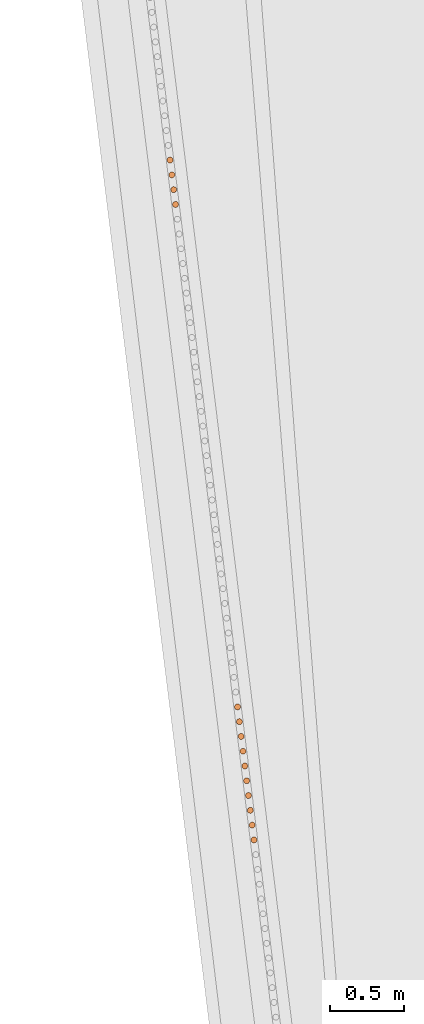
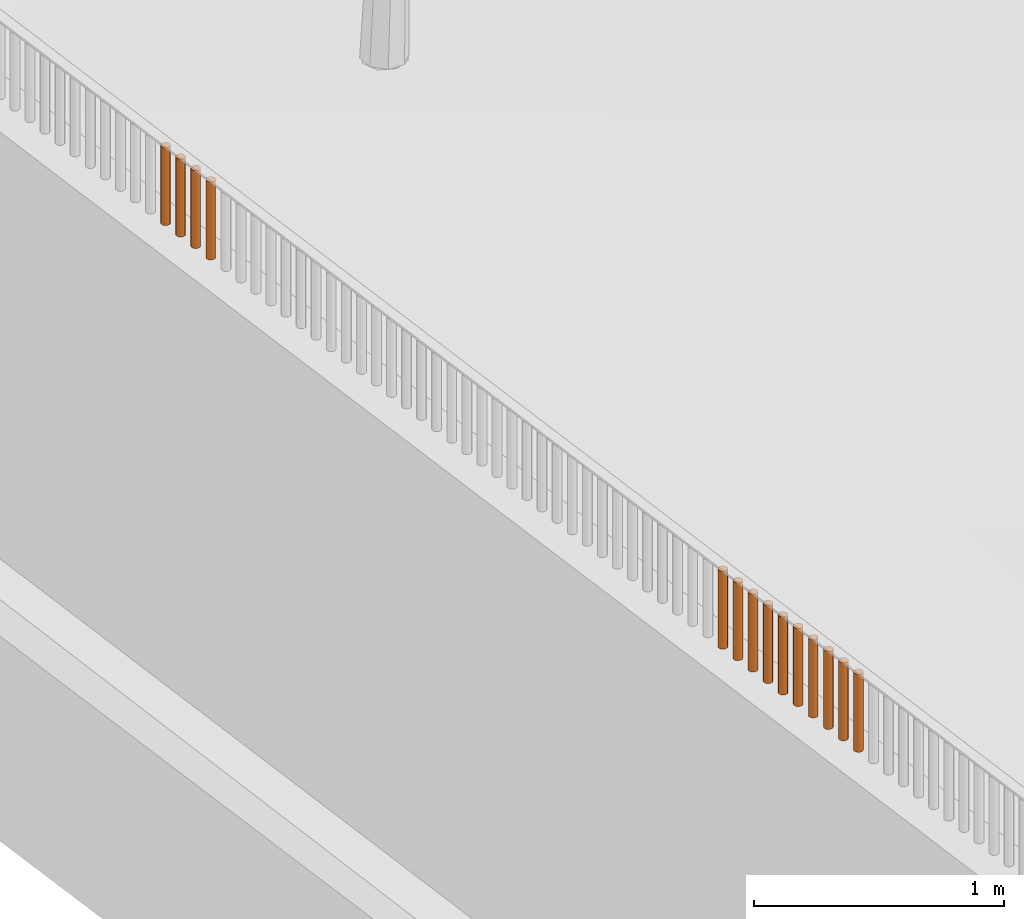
# One storey, part 118 of 1809: 14 proxies, 1 element without a shape of its own.
"""IFC2X3 building model written with IfcOpenShell, lengths in millimetres."""

from ifc_helpers import new_model, entity, si_unit, converted_unit, derived_unit, money_unit, direction, frame, origin_with_axes, place, context, subcontext, project, spatial, faceted_brep, source, transform, mapped, material, type_object, element, aggregate, save


model = new_model("IFC2X3")

# Units and contexts
model_context = context("Model", 3, precision=0.01, world=origin_with_axes(), true_north=direction((0.0, 1.0)))
body_context = subcontext(model_context, "Body", "Model", "MODEL_VIEW")
ifc_project = project(units=[si_unit("LENGTHUNIT", "METRE", prefix="MILLI"), si_unit("AREAUNIT", "SQUARE_METRE"), si_unit("VOLUMEUNIT", "CUBIC_METRE"), converted_unit("PLANEANGLEUNIT", "DEGREE", entity("IfcPlaneAngleMeasure", 0.0174532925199), si_unit("PLANEANGLEUNIT", "RADIAN"), dimensions=[0, 0, 0, 0, 0, 0, 0]), si_unit("SOLIDANGLEUNIT", "STERADIAN"), money_unit("EUR"), converted_unit("TIMEUNIT", "Year", entity("IfcTimeMeasure", 31556926.0), si_unit("TIMEUNIT", "SECOND"), dimensions=[0, 0, 1, 0, 0, 0, 0]), si_unit("MASSUNIT", "GRAM", prefix="KILO"), si_unit("THERMODYNAMICTEMPERATUREUNIT", "DEGREE_CELSIUS"), si_unit("LUMINOUSINTENSITYUNIT", "LUMEN"), si_unit("ENERGYUNIT", "JOULE", prefix="MEGA"), derived_unit("THERMALCONDUCTANCEUNIT", [(si_unit("POWERUNIT", "WATT"), 1), (si_unit("LENGTHUNIT", "METRE"), -1), (si_unit("THERMODYNAMICTEMPERATUREUNIT", "KELVIN"), -1)]), derived_unit("SPECIFICHEATCAPACITYUNIT", [(si_unit("ENERGYUNIT", "JOULE"), 1), (si_unit("MASSUNIT", "GRAM", prefix="KILO"), -1), (si_unit("THERMODYNAMICTEMPERATUREUNIT", "KELVIN"), -1)]), derived_unit("MASSDENSITYUNIT", [(si_unit("MASSUNIT", "GRAM", prefix="KILO"), 1), (si_unit("VOLUMEUNIT", "CUBIC_METRE"), -1)])], contexts=[model_context])

# Site, building, storey
site_placement = place(None, origin_with_axes())
site = spatial("IfcSite", under=ifc_project, at=site_placement, Name="Politse- ja Piirivalveameti ning Päästeameti ühishoone", CompositionType="ELEMENT")
building_placement = place(site_placement, origin_with_axes())
building = spatial("IfcBuilding", under=site, at=building_placement, Name="Politse- ja Piirivalveameti ning Päästeameti ühishoone", CompositionType="ELEMENT")
storey_placement = place(building_placement, origin_with_axes())
storey = spatial("IfcBuildingStorey", under=building, at=storey_placement, Name="Esimene korrus", CompositionType="ELEMENT", Elevation=0.0)

# Proxies
building_element_proxy_type_1 = type_object("IfcBuildingElementProxyType", Name="Railing Type", PredefinedType="NOTDEFINED")
proxy_1_placement = place(storey_placement, frame((-18956.5522504, -53688.4757966, 2100.0), z_axis=(0.0, 0.0, 1.0), x_axis=(1.0, 0.0, 0.0)))
proxy_1 = element("IfcBuildingElementProxy", 1, at=proxy_1_placement, inside=storey, type_object=building_element_proxy_type_1, Name="PIIRDEAED")
ifc_material = material(Name="ET-06_Teras - Konstruktsioon")
building_element_proxy_type_2 = type_object("IfcBuildingElementProxyType", Name="IfcBuildingElementProxy", PredefinedType="NOTDEFINED")
shared_shape_1 = source(origin_with_axes(), body_context, "Body", "Brep", [
    faceted_brep([(0.0, -20.0, 0.0), (3.47296355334, -19.6961550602, 0.0), (3.47296355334, -19.6961550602, 380.000012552), (0.0, -20.0, 380.000012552), (-3.47296355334, -19.6961550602, 0.0), (-6.84040286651, -18.7938524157, 0.0), (-10.0, -17.3205080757, 0.0), (-12.8557521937, -15.3208888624, 0.0), (-15.3208888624, -12.8557521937, 0.0), (-17.3205080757, -10.0, 0.0), (-18.7938524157, -6.84040286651, 0.0), (-19.6961550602, -3.47296355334, 0.0), (-20.0, 0.0, 0.0), (-19.6961550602, 3.47296355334, 0.0), (-18.7938524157, 6.84040286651, 0.0), (-17.3205080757, 10.0, 0.0), (-15.3208888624, 12.8557521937, 0.0), (-12.8557521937, 15.3208888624, 0.0), (-10.0, 17.3205080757, 0.0), (-6.84040286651, 18.7938524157, 0.0), (-3.47296355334, 19.6961550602, 0.0), (0.0, 20.0, 0.0), (3.47296355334, 19.6961550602, 0.0), (6.84040286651, 18.7938524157, 0.0), (10.0, 17.3205080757, 0.0), (12.8557521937, 15.3208888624, 0.0), (15.3208888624, 12.8557521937, 0.0), (17.3205080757, 10.0, 0.0), (18.7938524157, 6.84040286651, 0.0), (19.6961550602, 3.47296355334, 0.0), (20.0, 0.0, 0.0), (19.6961550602, -3.47296355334, 0.0), (18.7938524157, -6.84040286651, 0.0), (17.3205080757, -10.0, 0.0), (15.3208888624, -12.8557521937, 0.0), (12.8557521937, -15.3208888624, 0.0), (10.0, -17.3205080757, 0.0), (6.84040286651, -18.7938524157, 0.0), (6.84040286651, -18.7938524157, 380.000012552), (10.0, -17.3205080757, 380.000012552), (12.8557521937, -15.3208888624, 380.000012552), (15.3208888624, -12.8557521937, 380.000012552), (17.3205080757, -10.0, 380.000012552), (18.7938524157, -6.84040286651, 380.000012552), (19.6961550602, -3.47296355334, 380.000012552), (20.0, 0.0, 380.000012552), (19.6961550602, 3.47296355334, 380.000012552), (18.7938524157, 6.84040286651, 380.000012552), (17.3205080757, 10.0, 380.000012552), (15.3208888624, 12.8557521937, 380.000012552), (12.8557521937, 15.3208888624, 380.000012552), (10.0, 17.3205080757, 380.000012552), (6.84040286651, 18.7938524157, 380.000012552), (3.47296355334, 19.6961550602, 380.000012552), (0.0, 20.0, 380.000012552), (-3.47296355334, 19.6961550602, 380.000012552), (-6.84040286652, 18.7938524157, 380.000012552), (-10.0, 17.3205080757, 380.000012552), (-12.8557521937, 15.3208888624, 380.000012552), (-15.3208888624, 12.8557521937, 380.000012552), (-17.3205080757, 10.0, 380.000012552), (-18.7938524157, 6.84040286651, 380.000012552), (-19.6961550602, 3.47296355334, 380.000012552), (-20.0, 0.0, 380.000012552), (-19.6961550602, -3.47296355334, 380.000012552), (-18.7938524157, -6.84040286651, 380.000012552), (-17.3205080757, -10.0, 380.000012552), (-15.3208888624, -12.8557521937, 380.000012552), (-12.8557521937, -15.3208888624, 380.000012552), (-10.0, -17.3205080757, 380.000012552), (-6.84040286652, -18.7938524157, 380.000012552), (-3.47296355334, -19.6961550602, 380.000012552)], [[[0, 1, 2, 3]], [[0, 4, 5, 6, 7, 8, 9, 10, 11, 12, 13, 14, 15, 16, 17, 18, 19, 20, 21, 22, 23, 24, 25, 26, 27, 28, 29, 30, 31, 32, 33, 34, 35, 36, 37, 1]], [[1, 37, 38, 2]], [[3, 2, 38, 39, 40, 41, 42, 43, 44, 45, 46, 47, 48, 49, 50, 51, 52, 53, 54, 55, 56, 57, 58, 59, 60, 61, 62, 63, 64, 65, 66, 67, 68, 69, 70, 71]], [[4, 0, 3, 71]], [[5, 4, 71, 70]], [[6, 5, 70, 69]], [[7, 6, 69, 68]], [[8, 7, 68, 67]], [[9, 8, 67, 66]], [[10, 9, 66, 65]], [[11, 10, 65, 64]], [[12, 11, 64, 63]], [[13, 12, 63, 62]], [[14, 13, 62, 61]], [[15, 14, 61, 60]], [[16, 15, 60, 59]], [[17, 16, 59, 58]], [[18, 17, 58, 57]], [[19, 18, 57, 56]], [[20, 19, 56, 55]], [[21, 20, 55, 54]], [[22, 21, 54, 53]], [[23, 22, 53, 52]], [[24, 23, 52, 51]], [[25, 24, 51, 50]], [[26, 25, 50, 49]], [[27, 26, 49, 48]], [[28, 27, 48, 47]], [[29, 28, 47, 46]], [[30, 29, 46, 45]], [[31, 30, 45, 44]], [[32, 31, 44, 43]], [[33, 32, 43, 42]], [[34, 33, 42, 41]], [[35, 34, 41, 40]], [[36, 35, 40, 39]], [[37, 36, 39, 38]]]),
])
proxy_2_placement = place(proxy_1_placement, frame((-2456.82989096, 19070.0410102, -1.25517001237e-05), z_axis=(0.0, 0.0, 1.0), x_axis=(1.0, 0.0, 0.0)))
proxy_2 = element("IfcBuildingElementProxy", 2, at=proxy_2_placement, type_object=building_element_proxy_type_2, material=ifc_material, Name="BALUSTER - 001", context=body_context, shape_type="MappedRepresentation", body=[
    mapped(shared_shape_1, transform((0.0, 0.0, 0.0), x_axis=(0.992468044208, 0.122503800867, 0.0), y_axis=(-0.122503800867, 0.992468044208, 0.0), z_axis=(0.0, 0.0, 1.0))),
])
proxy_3_placement = place(proxy_1_placement, frame((-2542.56382535, 19764.6169302, -1.25517001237e-05), z_axis=(0.0, 0.0, 1.0), x_axis=(1.0, 0.0, 0.0)))
proxy_3 = element("IfcBuildingElementProxy", 3, at=proxy_3_placement, type_object=building_element_proxy_type_2, material=ifc_material, Name="BALUSTER - 001", context=body_context, shape_type="MappedRepresentation", body=[
    mapped(shared_shape_1, transform((0.0, 0.0, 0.0), x_axis=(0.992468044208, 0.122503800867, 0.0), y_axis=(-0.122503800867, 0.992468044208, 0.0), z_axis=(0.0, 0.0, 1.0))),
])
proxy_4_placement = place(proxy_1_placement, frame((-2554.81153027, 19863.8420616, -1.25517001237e-05), z_axis=(0.0, 0.0, 1.0), x_axis=(1.0, 0.0, 0.0)))
proxy_4 = element("IfcBuildingElementProxy", 4, at=proxy_4_placement, type_object=building_element_proxy_type_2, material=ifc_material, Name="BALUSTER - 001", context=body_context, shape_type="MappedRepresentation", body=[
    mapped(shared_shape_1, transform((0.0, 0.0, 0.0), x_axis=(0.992468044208, 0.122503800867, 0.0), y_axis=(-0.122503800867, 0.992468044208, 0.0), z_axis=(0.0, 0.0, 1.0))),
])
proxy_5_placement = place(proxy_1_placement, frame((-2995.72890714, 23435.9467929, -1.25517001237e-05), z_axis=(0.0, 0.0, 1.0), x_axis=(1.0, 0.0, 0.0)))
proxy_5 = element("IfcBuildingElementProxy", 5, at=proxy_5_placement, type_object=building_element_proxy_type_2, material=ifc_material, Name="BALUSTER - 001", context=body_context, shape_type="MappedRepresentation", body=[
    mapped(shared_shape_1, transform((0.0, 0.0, 0.0), x_axis=(0.992468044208, 0.122503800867, 0.0), y_axis=(-0.122503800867, 0.992468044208, 0.0), z_axis=(0.0, 0.0, 1.0))),
])
shared_shape_2 = source(origin_with_axes(), body_context, "Body", "Brep", [
    faceted_brep([(0.0, -20.0, 0.0), (3.47296355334, -19.6961550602, 0.0), (3.47296355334, -19.6961550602, 380.000012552), (0.0, -20.0, 380.000012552), (-3.47296355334, -19.6961550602, 0.0), (-6.84040286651, -18.7938524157, 0.0), (-10.0, -17.3205080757, 0.0), (-12.8557521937, -15.3208888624, 0.0), (-15.3208888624, -12.8557521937, 0.0), (-17.3205080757, -10.0, 0.0), (-18.7938524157, -6.84040286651, 0.0), (-19.6961550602, -3.47296355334, 0.0), (-20.0, 0.0, 0.0), (-19.6961550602, 3.47296355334, 0.0), (-18.7938524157, 6.84040286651, 0.0), (-17.3205080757, 10.0, 0.0), (-15.3208888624, 12.8557521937, 0.0), (-12.8557521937, 15.3208888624, 0.0), (-10.0, 17.3205080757, 0.0), (-6.84040286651, 18.7938524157, 0.0), (-3.47296355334, 19.6961550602, 0.0), (0.0, 20.0, 0.0), (3.47296355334, 19.6961550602, 0.0), (6.84040286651, 18.7938524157, 0.0), (10.0, 17.3205080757, 0.0), (12.8557521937, 15.3208888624, 0.0), (15.3208888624, 12.8557521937, 0.0), (17.3205080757, 10.0, 0.0), (18.7938524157, 6.84040286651, 0.0), (19.6961550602, 3.47296355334, 0.0), (20.0, 0.0, 0.0), (19.6961550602, -3.47296355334, 0.0), (18.7938524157, -6.84040286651, 0.0), (17.3205080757, -10.0, 0.0), (15.3208888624, -12.8557521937, 0.0), (12.8557521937, -15.3208888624, 0.0), (10.0, -17.3205080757, 0.0), (6.84040286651, -18.7938524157, 0.0), (6.84040286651, -18.7938524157, 380.000012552), (10.0, -17.3205080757, 380.000012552), (12.8557521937, -15.3208888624, 380.000012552), (15.3208888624, -12.8557521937, 380.000012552), (17.3205080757, -10.0, 380.000012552), (18.7938524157, -6.84040286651, 380.000012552), (19.6961550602, -3.47296355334, 380.000012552), (20.0, 0.0, 380.000012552), (19.6961550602, 3.47296355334, 380.000012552), (18.7938524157, 6.84040286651, 380.000012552), (17.3205080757, 10.0, 380.000012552), (15.3208888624, 12.8557521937, 380.000012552), (12.8557521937, 15.3208888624, 380.000012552), (10.0, 17.3205080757, 380.000012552), (6.84040286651, 18.7938524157, 380.000012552), (3.47296355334, 19.6961550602, 380.000012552), (0.0, 20.0, 380.000012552), (-3.47296355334, 19.6961550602, 380.000012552), (-6.84040286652, 18.7938524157, 380.000012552), (-10.0, 17.3205080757, 380.000012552), (-12.8557521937, 15.3208888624, 380.000012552), (-15.3208888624, 12.8557521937, 380.000012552), (-17.3205080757, 10.0, 380.000012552), (-18.7938524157, 6.84040286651, 380.000012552), (-19.6961550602, 3.47296355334, 380.000012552), (-20.0, 0.0, 380.000012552), (-19.6961550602, -3.47296355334, 380.000012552), (-18.7938524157, -6.84040286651, 380.000012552), (-17.3205080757, -10.0, 380.000012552), (-15.3208888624, -12.8557521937, 380.000012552), (-12.8557521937, -15.3208888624, 380.000012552), (-10.0, -17.3205080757, 380.000012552), (-6.84040286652, -18.7938524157, 380.000012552), (-3.47296355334, -19.6961550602, 380.000012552)], [[[0, 1, 2, 3]], [[0, 4, 5, 6, 7, 8, 9, 10, 11, 12, 13, 14, 15, 16, 17, 18, 19, 20, 21, 22, 23, 24, 25, 26, 27, 28, 29, 30, 31, 32, 33, 34, 35, 36, 37, 1]], [[1, 37, 38, 2]], [[3, 2, 38, 39, 40, 41, 42, 43, 44, 45, 46, 47, 48, 49, 50, 51, 52, 53, 54, 55, 56, 57, 58, 59, 60, 61, 62, 63, 64, 65, 66, 67, 68, 69, 70, 71]], [[4, 0, 3, 71]], [[5, 4, 71, 70]], [[6, 5, 70, 69]], [[7, 6, 69, 68]], [[8, 7, 68, 67]], [[9, 8, 67, 66]], [[10, 9, 66, 65]], [[11, 10, 65, 64]], [[12, 11, 64, 63]], [[13, 12, 63, 62]], [[14, 13, 62, 61]], [[15, 14, 61, 60]], [[16, 15, 60, 59]], [[17, 16, 59, 58]], [[18, 17, 58, 57]], [[19, 18, 57, 56]], [[20, 19, 56, 55]], [[21, 20, 55, 54]], [[22, 21, 54, 53]], [[23, 22, 53, 52]], [[24, 23, 52, 51]], [[25, 24, 51, 50]], [[26, 25, 50, 49]], [[27, 26, 49, 48]], [[28, 27, 48, 47]], [[29, 28, 47, 46]], [[30, 29, 46, 45]], [[31, 30, 45, 44]], [[32, 31, 44, 43]], [[33, 32, 43, 42]], [[34, 33, 42, 41]], [[35, 34, 41, 40]], [[36, 35, 40, 39]], [[37, 36, 39, 38]]]),
])
proxy_6_placement = place(proxy_1_placement, frame((-2481.32530079, 19268.4912731, -1.25517001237e-05), z_axis=(0.0, 0.0, 1.0), x_axis=(1.0, 0.0, 0.0)))
proxy_6 = element("IfcBuildingElementProxy", 6, at=proxy_6_placement, type_object=building_element_proxy_type_2, material=ifc_material, Name="BALUSTER - 001", context=body_context, shape_type="MappedRepresentation", body=[
    mapped(shared_shape_2, transform((0.0, 0.0, 0.0), x_axis=(0.992468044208, 0.122503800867, 0.0), y_axis=(-0.122503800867, 0.992468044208, 0.0), z_axis=(0.0, 0.0, 1.0))),
])
shared_shape_3 = source(origin_with_axes(), body_context, "Body", "Brep", [
    faceted_brep([(0.0, -20.0, 0.0), (3.47296355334, -19.6961550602, 0.0), (3.47296355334, -19.6961550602, 380.000012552), (0.0, -20.0, 380.000012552), (-3.47296355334, -19.6961550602, 0.0), (-6.84040286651, -18.7938524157, 0.0), (-10.0, -17.3205080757, 0.0), (-12.8557521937, -15.3208888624, 0.0), (-15.3208888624, -12.8557521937, 0.0), (-17.3205080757, -10.0, 0.0), (-18.7938524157, -6.84040286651, 0.0), (-19.6961550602, -3.47296355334, 0.0), (-20.0, 0.0, 0.0), (-19.6961550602, 3.47296355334, 0.0), (-18.7938524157, 6.84040286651, 0.0), (-17.3205080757, 10.0, 0.0), (-15.3208888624, 12.8557521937, 0.0), (-12.8557521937, 15.3208888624, 0.0), (-10.0, 17.3205080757, 0.0), (-6.84040286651, 18.7938524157, 0.0), (-3.47296355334, 19.6961550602, 0.0), (0.0, 20.0, 0.0), (3.47296355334, 19.6961550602, 0.0), (6.84040286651, 18.7938524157, 0.0), (10.0, 17.3205080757, 0.0), (12.8557521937, 15.3208888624, 0.0), (15.3208888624, 12.8557521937, 0.0), (17.3205080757, 10.0, 0.0), (18.7938524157, 6.84040286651, 0.0), (19.6961550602, 3.47296355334, 0.0), (20.0, 0.0, 0.0), (19.6961550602, -3.47296355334, 0.0), (18.7938524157, -6.84040286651, 0.0), (17.3205080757, -10.0, 0.0), (15.3208888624, -12.8557521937, 0.0), (12.8557521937, -15.3208888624, 0.0), (10.0, -17.3205080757, 0.0), (6.84040286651, -18.7938524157, 0.0), (6.84040286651, -18.7938524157, 380.000012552), (10.0, -17.3205080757, 380.000012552), (12.8557521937, -15.3208888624, 380.000012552), (15.3208888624, -12.8557521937, 380.000012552), (17.3205080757, -10.0, 380.000012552), (18.7938524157, -6.84040286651, 380.000012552), (19.6961550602, -3.47296355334, 380.000012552), (20.0, 0.0, 380.000012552), (19.6961550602, 3.47296355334, 380.000012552), (18.7938524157, 6.84040286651, 380.000012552), (17.3205080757, 10.0, 380.000012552), (15.3208888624, 12.8557521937, 380.000012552), (12.8557521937, 15.3208888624, 380.000012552), (10.0, 17.3205080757, 380.000012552), (6.84040286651, 18.7938524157, 380.000012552), (3.47296355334, 19.6961550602, 380.000012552), (0.0, 20.0, 380.000012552), (-3.47296355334, 19.6961550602, 380.000012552), (-6.84040286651, 18.7938524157, 380.000012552), (-10.0, 17.3205080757, 380.000012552), (-12.8557521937, 15.3208888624, 380.000012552), (-15.3208888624, 12.8557521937, 380.000012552), (-17.3205080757, 10.0, 380.000012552), (-18.7938524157, 6.84040286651, 380.000012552), (-19.6961550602, 3.47296355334, 380.000012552), (-20.0, 0.0, 380.000012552), (-19.6961550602, -3.47296355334, 380.000012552), (-18.7938524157, -6.84040286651, 380.000012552), (-17.3205080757, -10.0, 380.000012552), (-15.3208888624, -12.8557521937, 380.000012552), (-12.8557521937, -15.3208888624, 380.000012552), (-10.0, -17.3205080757, 380.000012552), (-6.84040286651, -18.7938524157, 380.000012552), (-3.47296355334, -19.6961550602, 380.000012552)], [[[0, 1, 2, 3]], [[0, 4, 5, 6, 7, 8, 9, 10, 11, 12, 13, 14, 15, 16, 17, 18, 19, 20, 21, 22, 23, 24, 25, 26, 27, 28, 29, 30, 31, 32, 33, 34, 35, 36, 37, 1]], [[1, 37, 38, 2]], [[3, 2, 38, 39, 40, 41, 42, 43, 44, 45, 46, 47, 48, 49, 50, 51, 52, 53, 54, 55, 56, 57, 58, 59, 60, 61, 62, 63, 64, 65, 66, 67, 68, 69, 70, 71]], [[4, 0, 3, 71]], [[5, 4, 71, 70]], [[6, 5, 70, 69]], [[7, 6, 69, 68]], [[8, 7, 68, 67]], [[9, 8, 67, 66]], [[10, 9, 66, 65]], [[11, 10, 65, 64]], [[12, 11, 64, 63]], [[13, 12, 63, 62]], [[14, 13, 62, 61]], [[15, 14, 61, 60]], [[16, 15, 60, 59]], [[17, 16, 59, 58]], [[18, 17, 58, 57]], [[19, 18, 57, 56]], [[20, 19, 56, 55]], [[21, 20, 55, 54]], [[22, 21, 54, 53]], [[23, 22, 53, 52]], [[24, 23, 52, 51]], [[25, 24, 51, 50]], [[26, 25, 50, 49]], [[27, 26, 49, 48]], [[28, 27, 48, 47]], [[29, 28, 47, 46]], [[30, 29, 46, 45]], [[31, 30, 45, 44]], [[32, 31, 44, 43]], [[33, 32, 43, 42]], [[34, 33, 42, 41]], [[35, 34, 41, 40]], [[36, 35, 40, 39]], [[37, 36, 39, 38]]]),
])
proxy_7_placement = place(proxy_1_placement, frame((-2444.58218605, 18970.8158788, -1.25517001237e-05), z_axis=(0.0, 0.0, 1.0), x_axis=(1.0, 0.0, 0.0)))
proxy_7 = element("IfcBuildingElementProxy", 7, at=proxy_7_placement, type_object=building_element_proxy_type_2, material=ifc_material, Name="BALUSTER - 001", context=body_context, shape_type="MappedRepresentation", body=[
    mapped(shared_shape_3, transform((0.0, 0.0, 0.0), x_axis=(0.992468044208, 0.122503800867, 0.0), y_axis=(-0.122503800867, 0.992468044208, 0.0), z_axis=(0.0, 0.0, 1.0))),
])
proxy_8_placement = place(proxy_1_placement, frame((-2469.07759588, 19169.2661417, -1.25517001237e-05), z_axis=(0.0, 0.0, 1.0), x_axis=(1.0, 0.0, 0.0)))
proxy_8 = element("IfcBuildingElementProxy", 8, at=proxy_8_placement, type_object=building_element_proxy_type_2, material=ifc_material, Name="BALUSTER - 001", context=body_context, shape_type="MappedRepresentation", body=[
    mapped(shared_shape_3, transform((0.0, 0.0, 0.0), x_axis=(0.992468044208, 0.122503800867, 0.0), y_axis=(-0.122503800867, 0.992468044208, 0.0), z_axis=(0.0, 0.0, 1.0))),
])
proxy_9_placement = place(proxy_1_placement, frame((-2493.5730057, 19367.7164045, -1.25517001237e-05), z_axis=(0.0, 0.0, 1.0), x_axis=(1.0, 0.0, 0.0)))
proxy_9 = element("IfcBuildingElementProxy", 9, at=proxy_9_placement, type_object=building_element_proxy_type_2, material=ifc_material, Name="BALUSTER - 001", context=body_context, shape_type="MappedRepresentation", body=[
    mapped(shared_shape_3, transform((0.0, 0.0, 0.0), x_axis=(0.992468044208, 0.122503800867, 0.0), y_axis=(-0.122503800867, 0.992468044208, 0.0), z_axis=(0.0, 0.0, 1.0))),
])
proxy_10_placement = place(proxy_1_placement, frame((-2518.06841553, 19566.1666674, -1.25517001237e-05), z_axis=(0.0, 0.0, 1.0), x_axis=(1.0, 0.0, 0.0)))
proxy_10 = element("IfcBuildingElementProxy", 10, at=proxy_10_placement, type_object=building_element_proxy_type_2, material=ifc_material, Name="BALUSTER - 001", context=body_context, shape_type="MappedRepresentation", body=[
    mapped(shared_shape_3, transform((0.0, 0.0, 0.0), x_axis=(0.992468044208, 0.122503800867, 0.0), y_axis=(-0.122503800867, 0.992468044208, 0.0), z_axis=(0.0, 0.0, 1.0))),
])
proxy_11_placement = place(proxy_1_placement, frame((-2983.48120222, 23336.7216615, -1.25517001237e-05), z_axis=(0.0, 0.0, 1.0), x_axis=(1.0, 0.0, 0.0)))
proxy_11 = element("IfcBuildingElementProxy", 11, at=proxy_11_placement, type_object=building_element_proxy_type_2, material=ifc_material, Name="BALUSTER - 001", context=body_context, shape_type="MappedRepresentation", body=[
    mapped(shared_shape_3, transform((0.0, 0.0, 0.0), x_axis=(0.992468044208, 0.122503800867, 0.0), y_axis=(-0.122503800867, 0.992468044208, 0.0), z_axis=(0.0, 0.0, 1.0))),
])
proxy_12_placement = place(proxy_1_placement, frame((-3007.97661205, 23535.1719244, -1.25517001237e-05), z_axis=(0.0, 0.0, 1.0), x_axis=(1.0, 0.0, 0.0)))
proxy_12 = element("IfcBuildingElementProxy", 12, at=proxy_12_placement, type_object=building_element_proxy_type_2, material=ifc_material, Name="BALUSTER - 001", context=body_context, shape_type="MappedRepresentation", body=[
    mapped(shared_shape_3, transform((0.0, 0.0, 0.0), x_axis=(0.992468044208, 0.122503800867, 0.0), y_axis=(-0.122503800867, 0.992468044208, 0.0), z_axis=(0.0, 0.0, 1.0))),
])
shared_shape_4 = source(origin_with_axes(), body_context, "Body", "Brep", [
    faceted_brep([(0.0, -20.0, 0.0), (3.47296355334, -19.6961550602, 0.0), (3.47296355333, -19.6961550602, 380.000012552), (0.0, -20.0, 380.000012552), (-3.47296355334, -19.6961550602, 0.0), (-6.84040286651, -18.7938524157, 0.0), (-10.0, -17.3205080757, 0.0), (-12.8557521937, -15.3208888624, 0.0), (-15.3208888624, -12.8557521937, 0.0), (-17.3205080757, -10.0, 0.0), (-18.7938524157, -6.84040286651, 0.0), (-19.6961550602, -3.47296355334, 0.0), (-20.0, 0.0, 0.0), (-19.6961550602, 3.47296355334, 0.0), (-18.7938524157, 6.84040286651, 0.0), (-17.3205080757, 10.0, 0.0), (-15.3208888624, 12.8557521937, 0.0), (-12.8557521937, 15.3208888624, 0.0), (-10.0, 17.3205080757, 0.0), (-6.84040286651, 18.7938524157, 0.0), (-3.47296355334, 19.6961550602, 0.0), (0.0, 20.0, 0.0), (3.47296355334, 19.6961550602, 0.0), (6.84040286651, 18.7938524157, 0.0), (10.0, 17.3205080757, 0.0), (12.8557521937, 15.3208888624, 0.0), (15.3208888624, 12.8557521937, 0.0), (17.3205080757, 10.0, 0.0), (18.7938524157, 6.84040286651, 0.0), (19.6961550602, 3.47296355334, 0.0), (20.0, 0.0, 0.0), (19.6961550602, -3.47296355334, 0.0), (18.7938524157, -6.84040286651, 0.0), (17.3205080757, -10.0, 0.0), (15.3208888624, -12.8557521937, 0.0), (12.8557521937, -15.3208888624, 0.0), (10.0, -17.3205080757, 0.0), (6.84040286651, -18.7938524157, 0.0), (6.84040286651, -18.7938524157, 380.000012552), (9.99999999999, -17.3205080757, 380.000012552), (12.8557521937, -15.3208888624, 380.000012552), (15.3208888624, -12.8557521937, 380.000012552), (17.3205080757, -10.0, 380.000012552), (18.7938524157, -6.84040286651, 380.000012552), (19.6961550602, -3.47296355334, 380.000012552), (20.0, 0.0, 380.000012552), (19.6961550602, 3.47296355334, 380.000012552), (18.7938524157, 6.84040286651, 380.000012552), (17.3205080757, 10.0, 380.000012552), (15.3208888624, 12.8557521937, 380.000012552), (12.8557521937, 15.3208888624, 380.000012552), (9.99999999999, 17.3205080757, 380.000012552), (6.84040286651, 18.7938524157, 380.000012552), (3.47296355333, 19.6961550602, 380.000012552), (0.0, 20.0, 380.000012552), (-3.47296355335, 19.6961550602, 380.000012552), (-6.84040286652, 18.7938524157, 380.000012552), (-10.0, 17.3205080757, 380.000012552), (-12.8557521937, 15.3208888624, 380.000012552), (-15.3208888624, 12.8557521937, 380.000012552), (-17.3205080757, 10.0, 380.000012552), (-18.7938524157, 6.84040286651, 380.000012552), (-19.6961550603, 3.47296355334, 380.000012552), (-20.0, 0.0, 380.000012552), (-19.6961550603, -3.47296355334, 380.000012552), (-18.7938524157, -6.84040286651, 380.000012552), (-17.3205080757, -10.0, 380.000012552), (-15.3208888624, -12.8557521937, 380.000012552), (-12.8557521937, -15.3208888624, 380.000012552), (-10.0, -17.3205080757, 380.000012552), (-6.84040286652, -18.7938524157, 380.000012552), (-3.47296355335, -19.6961550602, 380.000012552)], [[[0, 1, 2, 3]], [[0, 4, 5, 6, 7, 8, 9, 10, 11, 12, 13, 14, 15, 16, 17, 18, 19, 20, 21, 22, 23, 24, 25, 26, 27, 28, 29, 30, 31, 32, 33, 34, 35, 36, 37, 1]], [[1, 37, 38, 2]], [[3, 2, 38, 39, 40, 41, 42, 43, 44, 45, 46, 47, 48, 49, 50, 51, 52, 53, 54, 55, 56, 57, 58, 59, 60, 61, 62, 63, 64, 65, 66, 67, 68, 69, 70, 71]], [[4, 0, 3, 71]], [[5, 4, 71, 70]], [[6, 5, 70, 69]], [[7, 6, 69, 68]], [[8, 7, 68, 67]], [[9, 8, 67, 66]], [[10, 9, 66, 65]], [[11, 10, 65, 64]], [[12, 11, 64, 63]], [[13, 12, 63, 62]], [[14, 13, 62, 61]], [[15, 14, 61, 60]], [[16, 15, 60, 59]], [[17, 16, 59, 58]], [[18, 17, 58, 57]], [[19, 18, 57, 56]], [[20, 19, 56, 55]], [[21, 20, 55, 54]], [[22, 21, 54, 53]], [[23, 22, 53, 52]], [[24, 23, 52, 51]], [[25, 24, 51, 50]], [[26, 25, 50, 49]], [[27, 26, 49, 48]], [[28, 27, 48, 47]], [[29, 28, 47, 46]], [[30, 29, 46, 45]], [[31, 30, 45, 44]], [[32, 31, 44, 43]], [[33, 32, 43, 42]], [[34, 33, 42, 41]], [[35, 34, 41, 40]], [[36, 35, 40, 39]], [[37, 36, 39, 38]]]),
])
proxy_13_placement = place(proxy_1_placement, frame((-2505.82071061, 19466.9415359, -1.25517001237e-05), z_axis=(0.0, 0.0, 1.0), x_axis=(1.0, 0.0, 0.0)))
proxy_13 = element("IfcBuildingElementProxy", 13, at=proxy_13_placement, type_object=building_element_proxy_type_2, material=ifc_material, Name="BALUSTER - 001", context=body_context, shape_type="MappedRepresentation", body=[
    mapped(shared_shape_4, transform((0.0, 0.0, 0.0), x_axis=(0.992468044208, 0.122503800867, 0.0), y_axis=(-0.122503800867, 0.992468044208, 0.0), z_axis=(0.0, 0.0, 1.0))),
])
shared_shape_5 = source(origin_with_axes(), body_context, "Body", "Brep", [
    faceted_brep([(0.0, -20.0, 0.0), (3.47296355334, -19.6961550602, 0.0), (3.47296355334, -19.6961550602, 380.000012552), (0.0, -20.0, 380.000012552), (-3.47296355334, -19.6961550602, 0.0), (-6.84040286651, -18.7938524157, 0.0), (-10.0, -17.3205080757, 0.0), (-12.8557521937, -15.3208888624, 0.0), (-15.3208888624, -12.8557521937, 0.0), (-17.3205080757, -10.0, 0.0), (-18.7938524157, -6.84040286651, 0.0), (-19.6961550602, -3.47296355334, 0.0), (-20.0, 0.0, 0.0), (-19.6961550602, 3.47296355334, 0.0), (-18.7938524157, 6.84040286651, 0.0), (-17.3205080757, 10.0, 0.0), (-15.3208888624, 12.8557521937, 0.0), (-12.8557521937, 15.3208888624, 0.0), (-10.0, 17.3205080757, 0.0), (-6.84040286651, 18.7938524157, 0.0), (-3.47296355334, 19.6961550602, 0.0), (0.0, 20.0, 0.0), (3.47296355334, 19.6961550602, 0.0), (6.84040286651, 18.7938524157, 0.0), (10.0, 17.3205080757, 0.0), (12.8557521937, 15.3208888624, 0.0), (15.3208888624, 12.8557521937, 0.0), (17.3205080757, 10.0, 0.0), (18.7938524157, 6.84040286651, 0.0), (19.6961550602, 3.47296355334, 0.0), (20.0, 0.0, 0.0), (19.6961550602, -3.47296355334, 0.0), (18.7938524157, -6.84040286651, 0.0), (17.3205080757, -10.0, 0.0), (15.3208888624, -12.8557521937, 0.0), (12.8557521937, -15.3208888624, 0.0), (10.0, -17.3205080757, 0.0), (6.84040286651, -18.7938524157, 0.0), (6.84040286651, -18.7938524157, 380.000012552), (10.0, -17.3205080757, 380.000012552), (12.8557521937, -15.3208888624, 380.000012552), (15.3208888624, -12.8557521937, 380.000012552), (17.3205080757, -10.0, 380.000012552), (18.7938524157, -6.84040286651, 380.000012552), (19.6961550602, -3.47296355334, 380.000012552), (20.0, 0.0, 380.000012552), (19.6961550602, 3.47296355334, 380.000012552), (18.7938524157, 6.84040286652, 380.000012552), (17.3205080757, 10.0, 380.000012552), (15.3208888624, 12.8557521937, 380.000012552), (12.8557521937, 15.3208888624, 380.000012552), (10.0, 17.3205080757, 380.000012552), (6.84040286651, 18.7938524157, 380.000012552), (3.47296355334, 19.6961550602, 380.000012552), (0.0, 20.0, 380.000012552), (-3.47296355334, 19.6961550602, 380.000012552), (-6.84040286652, 18.7938524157, 380.000012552), (-10.0, 17.3205080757, 380.000012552), (-12.8557521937, 15.3208888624, 380.000012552), (-15.3208888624, 12.8557521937, 380.000012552), (-17.3205080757, 10.0, 380.000012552), (-18.7938524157, 6.84040286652, 380.000012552), (-19.6961550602, 3.47296355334, 380.000012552), (-20.0, 0.0, 380.000012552), (-19.6961550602, -3.47296355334, 380.000012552), (-18.7938524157, -6.84040286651, 380.000012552), (-17.3205080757, -10.0, 380.000012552), (-15.3208888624, -12.8557521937, 380.000012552), (-12.8557521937, -15.3208888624, 380.000012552), (-10.0, -17.3205080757, 380.000012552), (-6.84040286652, -18.7938524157, 380.000012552), (-3.47296355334, -19.6961550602, 380.000012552)], [[[0, 1, 2, 3]], [[0, 4, 5, 6, 7, 8, 9, 10, 11, 12, 13, 14, 15, 16, 17, 18, 19, 20, 21, 22, 23, 24, 25, 26, 27, 28, 29, 30, 31, 32, 33, 34, 35, 36, 37, 1]], [[1, 37, 38, 2]], [[3, 2, 38, 39, 40, 41, 42, 43, 44, 45, 46, 47, 48, 49, 50, 51, 52, 53, 54, 55, 56, 57, 58, 59, 60, 61, 62, 63, 64, 65, 66, 67, 68, 69, 70, 71]], [[4, 0, 3, 71]], [[5, 4, 71, 70]], [[6, 5, 70, 69]], [[7, 6, 69, 68]], [[8, 7, 68, 67]], [[9, 8, 67, 66]], [[10, 9, 66, 65]], [[11, 10, 65, 64]], [[12, 11, 64, 63]], [[13, 12, 63, 62]], [[14, 13, 62, 61]], [[15, 14, 61, 60]], [[16, 15, 60, 59]], [[17, 16, 59, 58]], [[18, 17, 58, 57]], [[19, 18, 57, 56]], [[20, 19, 56, 55]], [[21, 20, 55, 54]], [[22, 21, 54, 53]], [[23, 22, 53, 52]], [[24, 23, 52, 51]], [[25, 24, 51, 50]], [[26, 25, 50, 49]], [[27, 26, 49, 48]], [[28, 27, 48, 47]], [[29, 28, 47, 46]], [[30, 29, 46, 45]], [[31, 30, 45, 44]], [[32, 31, 44, 43]], [[33, 32, 43, 42]], [[34, 33, 42, 41]], [[35, 34, 41, 40]], [[36, 35, 40, 39]], [[37, 36, 39, 38]]]),
])
proxy_14_placement = place(proxy_1_placement, frame((-2530.31612044, 19665.3917988, -1.25517001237e-05), z_axis=(0.0, 0.0, 1.0), x_axis=(1.0, 0.0, 0.0)))
proxy_14 = element("IfcBuildingElementProxy", 14, at=proxy_14_placement, type_object=building_element_proxy_type_2, material=ifc_material, Name="BALUSTER - 001", context=body_context, shape_type="MappedRepresentation", body=[
    mapped(shared_shape_5, transform((0.0, 0.0, 0.0), x_axis=(0.992468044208, 0.122503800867, 0.0), y_axis=(-0.122503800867, 0.992468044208, 0.0), z_axis=(0.0, 0.0, 1.0))),
])
proxy_15_placement = place(proxy_1_placement, frame((-2971.23349731, 23237.4965301, -1.25517001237e-05), z_axis=(0.0, 0.0, 1.0), x_axis=(1.0, 0.0, 0.0)))
proxy_15 = element("IfcBuildingElementProxy", 15, at=proxy_15_placement, type_object=building_element_proxy_type_2, material=ifc_material, Name="BALUSTER - 001", context=body_context, shape_type="MappedRepresentation", body=[
    mapped(shared_shape_5, transform((0.0, 0.0, 0.0), x_axis=(0.992468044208, 0.122503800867, 0.0), y_axis=(-0.122503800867, 0.992468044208, 0.0), z_axis=(0.0, 0.0, 1.0))),
])
aggregate(proxy_1, [proxy_7, proxy_2, proxy_8, proxy_6, proxy_9, proxy_13, proxy_10, proxy_14, proxy_3, proxy_4, proxy_15, proxy_11, proxy_5, proxy_12])

save(model, "model.ifc")
